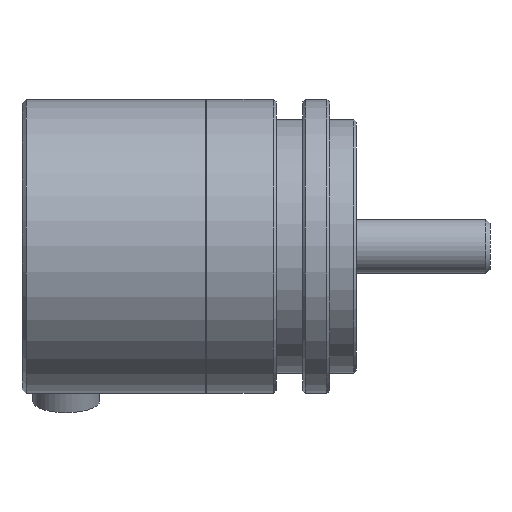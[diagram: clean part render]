
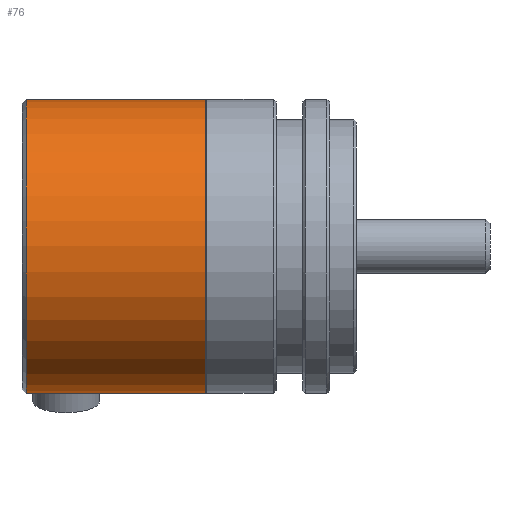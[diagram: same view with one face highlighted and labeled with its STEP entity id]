
A CAD part, left-side view. The second image highlights one B-rep face of the part: STEP entity #76.
In plain terms, the highlighted cylindrical face has radius 11 mm (diameter 22 mm), a partial arc.
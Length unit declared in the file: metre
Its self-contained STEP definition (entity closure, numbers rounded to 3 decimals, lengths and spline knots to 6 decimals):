
#17 = VERTEX_POINT ( 'NONE', #391 ) ;
#21 = ORIENTED_EDGE ( 'NONE', *, *, #63, .T. ) ;
#56 = ORIENTED_EDGE ( 'NONE', *, *, #70, .F. ) ;
#63 = EDGE_CURVE ( 'NONE', #1671, #17, #831, .T. ) ;
#70 = EDGE_CURVE ( 'NONE', #176, #17, #938, .T. ) ;
#76 = ADVANCED_FACE ( 'NONE', ( #982 ), #983, .T. ) ;
#153 = EDGE_CURVE ( 'NONE', #1772, #176, #1546, .T. ) ;
#160 = ORIENTED_EDGE ( 'NONE', *, *, #153, .F. ) ;
#176 = VERTEX_POINT ( 'NONE', #303 ) ;
#221 = ORIENTED_EDGE ( 'NONE', *, *, #262, .T. ) ;
#262 = EDGE_CURVE ( 'NONE', #1772, #1671, #683, .T. ) ;
#303 = CARTESIAN_POINT ( 'NONE',  ( 0., 0.02125, 0.011 ) ) ;
#391 = CARTESIAN_POINT ( 'NONE',  ( 0., 0.02125, -0.011 ) ) ;
#683 = CIRCLE ( 'NONE', #684, 0.011 ) ;
#684 = AXIS2_PLACEMENT_3D ( 'NONE', #688, #689, #690 ) ;
#688 = CARTESIAN_POINT ( 'NONE',  ( 0., 0.0347, 0. ) ) ;
#689 = DIRECTION ( 'NONE',  ( 0., -1., 0. ) ) ;
#690 = DIRECTION ( 'NONE',  ( 0., 0., 1. ) ) ;
#831 = LINE ( 'NONE', #837, #838 ) ;
#837 = CARTESIAN_POINT ( 'NONE',  ( 0., 0., -0.011 ) ) ;
#838 = VECTOR ( 'NONE',  #839 ,1. ) ;
#839 = DIRECTION ( 'NONE',  ( 0., -1., 0. ) ) ;
#938 = CIRCLE ( 'NONE', #939, 0.011 ) ;
#939 = AXIS2_PLACEMENT_3D ( 'NONE', #940, #941, #944 ) ;
#940 = CARTESIAN_POINT ( 'NONE',  ( 0., 0.02125, 0. ) ) ;
#941 = DIRECTION ( 'NONE',  ( 0., -1., 0. ) ) ;
#944 = DIRECTION ( 'NONE',  ( 0., 0., -1. ) ) ;
#976 = CARTESIAN_POINT ( 'NONE',  ( 0., 0.0347, -0.011 ) ) ;
#982 = FACE_OUTER_BOUND ( 'NONE', #1770, .T. ) ;
#983 = CYLINDRICAL_SURFACE ( 'NONE', #984, 0.011 ) ;
#984 = AXIS2_PLACEMENT_3D ( 'NONE', #985, #986, #987 ) ;
#985 = CARTESIAN_POINT ( 'NONE',  ( 0., 0., 0. ) ) ;
#986 = DIRECTION ( 'NONE',  ( 0., -1., 0. ) ) ;
#987 = DIRECTION ( 'NONE',  ( 0., 0., -1. ) ) ;
#1327 = CARTESIAN_POINT ( 'NONE',  ( 0., 0.0347, 0.011 ) ) ;
#1546 = LINE ( 'NONE', #1547, #1548 ) ;
#1547 = CARTESIAN_POINT ( 'NONE',  ( 0., 0., 0.011 ) ) ;
#1548 = VECTOR ( 'NONE',  #1549 ,1. ) ;
#1549 = DIRECTION ( 'NONE',  ( 0., -1., 0. ) ) ;
#1671 = VERTEX_POINT ( 'NONE', #976 ) ;
#1770 = EDGE_LOOP ( 'NONE', ( #160, #221, #21, #56 ) ) ;
#1772 = VERTEX_POINT ( 'NONE', #1327 ) ;
